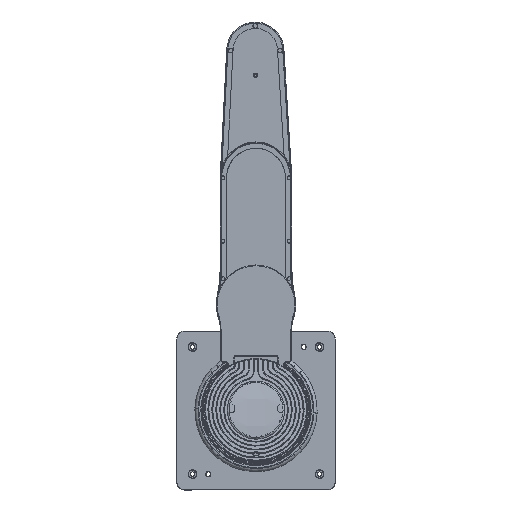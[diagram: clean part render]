
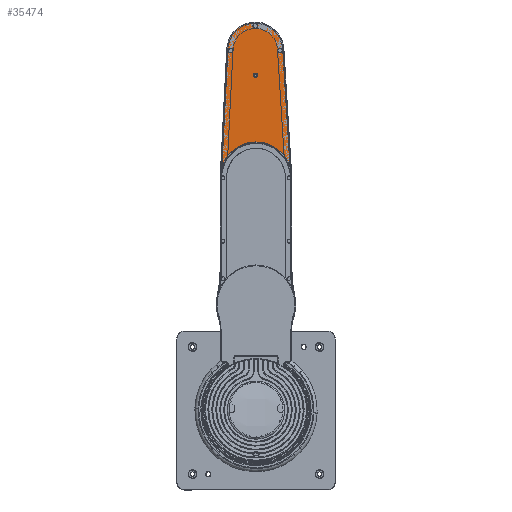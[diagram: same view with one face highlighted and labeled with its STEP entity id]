
A CAD part, top view. The second image highlights one B-rep face of the part: STEP entity #35474.
In plain terms, the highlighted planar face has unit normal (0, 0, 1).
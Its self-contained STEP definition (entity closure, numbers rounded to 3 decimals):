
#35363=CARTESIAN_POINT('Axis2P3D Location',(0.91,0.003,462.508)) ;
#35368=CARTESIAN_POINT('Line Origine',(39.879,82.447,462.508)) ;
#35372=CARTESIAN_POINT('Vertex',(44.825,2.727,462.508)) ;
#35374=CARTESIAN_POINT('Vertex',(34.933,162.167,462.508)) ;
#35377=CARTESIAN_POINT('Axis2P3D Location',(0.,160.,462.508)) ;
#35381=CARTESIAN_POINT('Vertex',(-34.955,161.77,462.508)) ;
#35384=CARTESIAN_POINT('Line Origine',(-38.995,81.999,462.508)) ;
#35388=CARTESIAN_POINT('Vertex',(-43.034,2.228,462.508)) ;
#35391=CARTESIAN_POINT('Axis2P3D Location',(0.91,0.003,462.508)) ;
#35402=CARTESIAN_POINT('Axis2P3D Location',(0.176,129.001,462.508)) ;
#35406=CARTESIAN_POINT('Vertex',(-2.289,130.329,462.508)) ;
#35408=CARTESIAN_POINT('Vertex',(2.641,127.672,462.508)) ;
#35411=CARTESIAN_POINT('Axis2P3D Location',(0.176,129.001,462.508)) ;
#35420=CARTESIAN_POINT('Axis2P3D Location',(-30.999,159.824,462.508)) ;
#35424=CARTESIAN_POINT('Vertex',(-32.328,157.359,462.508)) ;
#35426=CARTESIAN_POINT('Vertex',(-29.671,162.289,462.508)) ;
#35429=CARTESIAN_POINT('Axis2P3D Location',(-30.999,159.824,462.508)) ;
#35438=CARTESIAN_POINT('Axis2P3D Location',(-0.176,190.999,462.508)) ;
#35442=CARTESIAN_POINT('Vertex',(-2.641,192.328,462.508)) ;
#35444=CARTESIAN_POINT('Vertex',(2.289,189.671,462.508)) ;
#35447=CARTESIAN_POINT('Axis2P3D Location',(-0.176,190.999,462.508)) ;
#35456=CARTESIAN_POINT('Axis2P3D Location',(30.999,160.176,462.508)) ;
#35460=CARTESIAN_POINT('Vertex',(32.328,162.641,462.508)) ;
#35462=CARTESIAN_POINT('Vertex',(29.671,157.711,462.508)) ;
#35465=CARTESIAN_POINT('Axis2P3D Location',(30.999,160.176,462.508)) ;
#35364=DIRECTION('Axis2P3D Direction',(0.,0.,1.)) ;
#35365=DIRECTION('Axis2P3D XDirection',(1.,0.006,0.)) ;
#35369=DIRECTION('Vector Direction',(0.062,-0.998,0.)) ;
#35378=DIRECTION('Axis2P3D Direction',(0.,0.,1.)) ;
#35385=DIRECTION('Vector Direction',(-0.051,-0.999,0.)) ;
#35392=DIRECTION('Axis2P3D Direction',(0.,0.,1.)) ;
#35403=DIRECTION('Axis2P3D Direction',(0.,0.,1.)) ;
#35412=DIRECTION('Axis2P3D Direction',(0.,0.,1.)) ;
#35421=DIRECTION('Axis2P3D Direction',(0.,0.,1.)) ;
#35430=DIRECTION('Axis2P3D Direction',(0.,0.,1.)) ;
#35439=DIRECTION('Axis2P3D Direction',(0.,0.,1.)) ;
#35448=DIRECTION('Axis2P3D Direction',(0.,0.,1.)) ;
#35457=DIRECTION('Axis2P3D Direction',(0.,0.,1.)) ;
#35466=DIRECTION('Axis2P3D Direction',(0.,0.,1.)) ;
#35366=AXIS2_PLACEMENT_3D('Plane Axis2P3D',#35363,#35364,#35365) ;
#35379=AXIS2_PLACEMENT_3D('Circle Axis2P3D',#35377,#35378,$) ;
#35393=AXIS2_PLACEMENT_3D('Circle Axis2P3D',#35391,#35392,$) ;
#35404=AXIS2_PLACEMENT_3D('Circle Axis2P3D',#35402,#35403,$) ;
#35413=AXIS2_PLACEMENT_3D('Circle Axis2P3D',#35411,#35412,$) ;
#35422=AXIS2_PLACEMENT_3D('Circle Axis2P3D',#35420,#35421,$) ;
#35431=AXIS2_PLACEMENT_3D('Circle Axis2P3D',#35429,#35430,$) ;
#35440=AXIS2_PLACEMENT_3D('Circle Axis2P3D',#35438,#35439,$) ;
#35449=AXIS2_PLACEMENT_3D('Circle Axis2P3D',#35447,#35448,$) ;
#35458=AXIS2_PLACEMENT_3D('Circle Axis2P3D',#35456,#35457,$) ;
#35467=AXIS2_PLACEMENT_3D('Circle Axis2P3D',#35465,#35466,$) ;
#35397=ORIENTED_EDGE('',*,*,#35376,.T.) ;
#35398=ORIENTED_EDGE('',*,*,#35383,.T.) ;
#35399=ORIENTED_EDGE('',*,*,#35390,.T.) ;
#35400=ORIENTED_EDGE('',*,*,#35395,.T.) ;
#35417=ORIENTED_EDGE('',*,*,#35410,.F.) ;
#35418=ORIENTED_EDGE('',*,*,#35415,.F.) ;
#35435=ORIENTED_EDGE('',*,*,#35428,.F.) ;
#35436=ORIENTED_EDGE('',*,*,#35433,.F.) ;
#35453=ORIENTED_EDGE('',*,*,#35446,.F.) ;
#35454=ORIENTED_EDGE('',*,*,#35451,.F.) ;
#35471=ORIENTED_EDGE('',*,*,#35464,.F.) ;
#35472=ORIENTED_EDGE('',*,*,#35469,.F.) ;
#35419=FACE_BOUND('',#35416,.T.) ;
#35437=FACE_BOUND('',#35434,.T.) ;
#35455=FACE_BOUND('',#35452,.T.) ;
#35473=FACE_BOUND('',#35470,.T.) ;
#35370=VECTOR('Line Direction',#35369,1.) ;
#35386=VECTOR('Line Direction',#35385,1.) ;
#35474=ADVANCED_FACE('\X2\7B2C4E8C81C24F53\X0\\\\X2\96F64EF651E04F554F53\X0\',(#35401,#35419,#35437,#35455,#35473),#35367,.T.) ;
#35380=CIRCLE('generated circle',#35379,35.) ;
#35394=CIRCLE('generated circle',#35393,44.) ;
#35405=CIRCLE('generated circle',#35404,2.8) ;
#35414=CIRCLE('generated circle',#35413,2.8) ;
#35423=CIRCLE('generated circle',#35422,2.8) ;
#35432=CIRCLE('generated circle',#35431,2.8) ;
#35441=CIRCLE('generated circle',#35440,2.8) ;
#35450=CIRCLE('generated circle',#35449,2.8) ;
#35459=CIRCLE('generated circle',#35458,2.8) ;
#35468=CIRCLE('generated circle',#35467,2.8) ;
#35376=EDGE_CURVE('',#35373,#35375,#35371,.F.) ;
#35383=EDGE_CURVE('',#35375,#35382,#35380,.T.) ;
#35390=EDGE_CURVE('',#35382,#35389,#35387,.T.) ;
#35395=EDGE_CURVE('',#35389,#35373,#35394,.T.) ;
#35410=EDGE_CURVE('',#35407,#35409,#35405,.T.) ;
#35415=EDGE_CURVE('',#35409,#35407,#35414,.T.) ;
#35428=EDGE_CURVE('',#35425,#35427,#35423,.T.) ;
#35433=EDGE_CURVE('',#35427,#35425,#35432,.T.) ;
#35446=EDGE_CURVE('',#35443,#35445,#35441,.T.) ;
#35451=EDGE_CURVE('',#35445,#35443,#35450,.T.) ;
#35464=EDGE_CURVE('',#35461,#35463,#35459,.T.) ;
#35469=EDGE_CURVE('',#35463,#35461,#35468,.T.) ;
#35396=EDGE_LOOP('',(#35397,#35398,#35399,#35400)) ;
#35416=EDGE_LOOP('',(#35417,#35418)) ;
#35434=EDGE_LOOP('',(#35435,#35436)) ;
#35452=EDGE_LOOP('',(#35453,#35454)) ;
#35470=EDGE_LOOP('',(#35471,#35472)) ;
#35401=FACE_OUTER_BOUND('',#35396,.T.) ;
#35371=LINE('Line',#35368,#35370) ;
#35387=LINE('Line',#35384,#35386) ;
#35367=PLANE('Plane',#35366) ;
#35373=VERTEX_POINT('',#35372) ;
#35375=VERTEX_POINT('',#35374) ;
#35382=VERTEX_POINT('',#35381) ;
#35389=VERTEX_POINT('',#35388) ;
#35407=VERTEX_POINT('',#35406) ;
#35409=VERTEX_POINT('',#35408) ;
#35425=VERTEX_POINT('',#35424) ;
#35427=VERTEX_POINT('',#35426) ;
#35443=VERTEX_POINT('',#35442) ;
#35445=VERTEX_POINT('',#35444) ;
#35461=VERTEX_POINT('',#35460) ;
#35463=VERTEX_POINT('',#35462) ;
